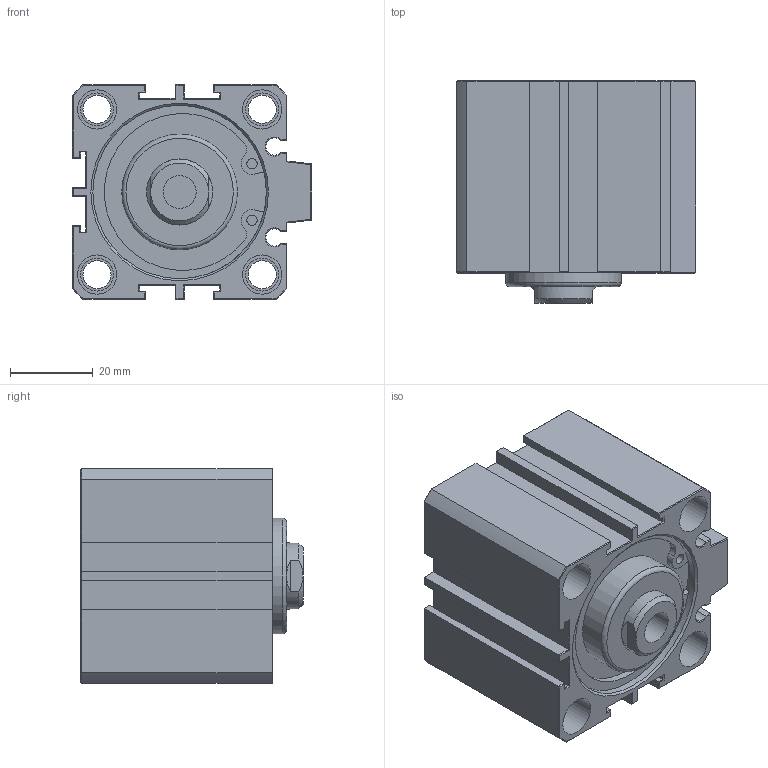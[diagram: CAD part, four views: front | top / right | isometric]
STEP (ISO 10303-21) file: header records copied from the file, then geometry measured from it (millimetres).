
FILE_DESCRIPTION(/* description */ (''),/* implementation_level */ '2;1');
FILE_NAME(/* name */ 'AJC-SDM40X10N',/* time_stamp */ '2019-07-05T11:36:00+08:00',/* author */ ('JEFF HUANG'),/* organization */ ('TAIWAN AMAC CLAMP INDUSTRIAL CO., LTD.'),/* preprocessor_version */ 'ST-DEVELOPER v16.7',/* originating_system */ 'DEX',/* authorisation */ $);
FILE_SCHEMA (('AUTOMOTIVE_DESIGN {1 0 10303 214 3 1 1}'));
Length unit declared in the file: millimetre
Products named in the file (1): AJC-SDM40X10N
Bounding box: 58 x 53.8 x 52 mm (x, y, z)
Volume: 105529.3 mm3; surface area: 26028.8 mm2
Topology: 1 solids, 1 shells, 263 faces, 573 edges, 340 vertices
Faces by surface type: plane 192, cylinder 51, cone 18, torus 2
Full cylindrical faces by diameter (mm): 2.5 x4, 6.8 x4, 8 x9, 9.147 x2, 9.5 x8, 28 x1, 29 x1, 42 x2
Entity records: 8693 total; most frequent: CARTESIAN_POINT 1220, DIRECTION 1162, ORIENTED_EDGE 1068, EDGE_CURVE 534, AXIS2_PLACEMENT_3D 392, LINE 378, VECTOR 378, VERTEX_POINT 338
